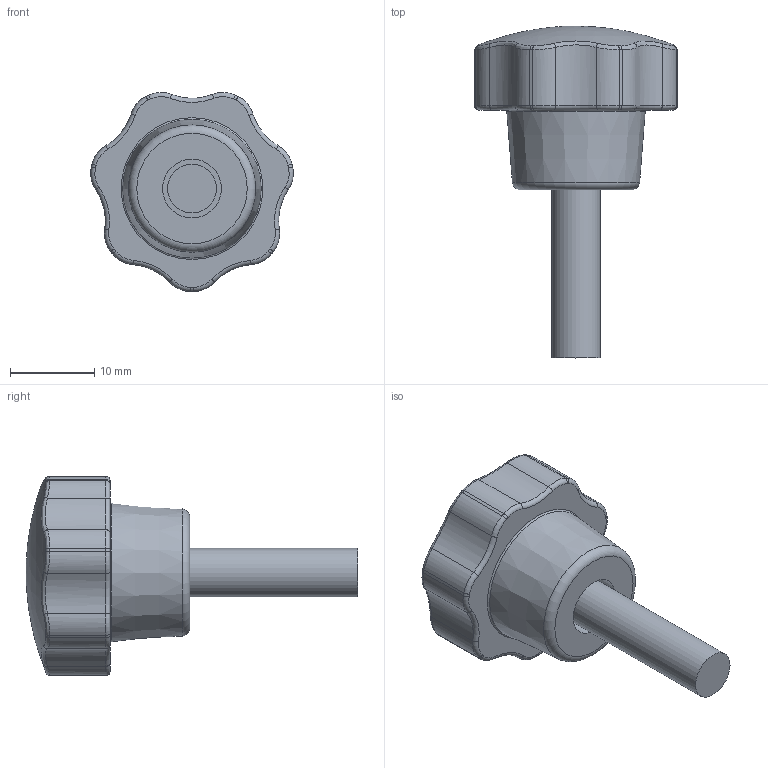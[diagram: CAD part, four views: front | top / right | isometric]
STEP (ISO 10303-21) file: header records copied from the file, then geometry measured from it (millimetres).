
FILE_DESCRIPTION(/* description */ (''),/* implementation_level */ '2;1');
FILE_NAME(/* name */ '\\SYNOLOGYNAS\web\db2\MSKB_M\MSKB6\도면\MSKB-M6-20.stp',/* time_stamp */ '2024-04-11T13:19:33+09:00',/* author */ ('user'),/* organization */ (''),/* preprocessor_version */ 'ST-DEVELOPER v15.6',/* originating_system */ 'Autodesk Inventor 2015',/* authorisation */ '');
FILE_SCHEMA (('AUTOMOTIVE_DESIGN { 1 0 10303 214 3 1 1 }'));
Length unit declared in the file: millimetre
Products named in the file (1): MSKB-M6-20
Bounding box: 24.11 x 39.5 x 23.68 mm (x, y, z)
Volume: 6019.9 mm3; surface area: 2402.1 mm2
Topology: 1 solids, 1 shells, 94 faces, 212 edges, 122 vertices
Faces by surface type: torus 37, cylinder 30, bspline 22, plane 4, cone 1
Full cylindrical faces by diameter (mm): 5.8 x1, 7 x1
Entity records: 3069 total; most frequent: CARTESIAN_POINT 1025, DIRECTION 444, ORIENTED_EDGE 412, AXIS2_PLACEMENT_3D 208, EDGE_CURVE 206, CIRCLE 135, VERTEX_POINT 122, EDGE_LOOP 102
